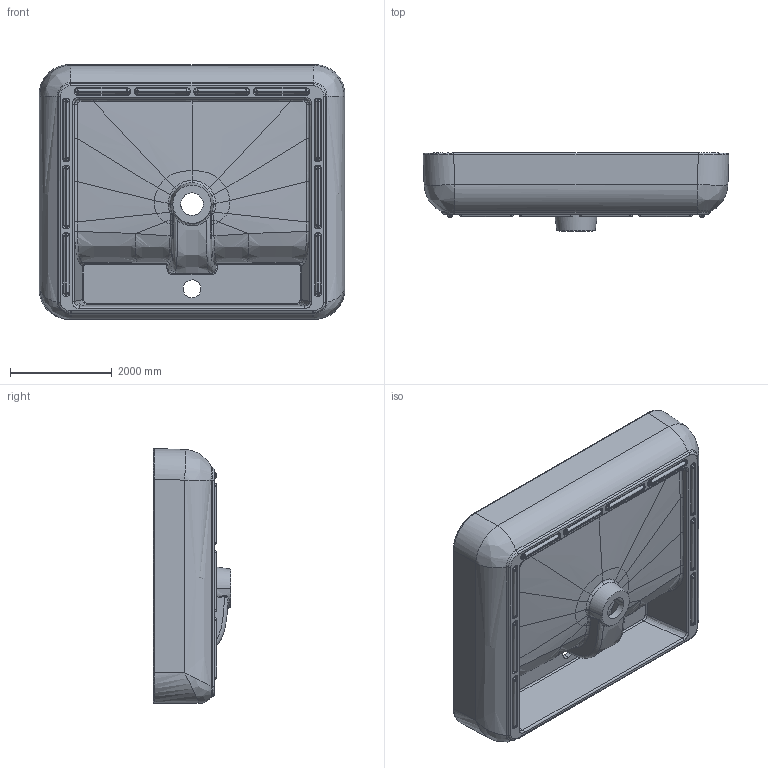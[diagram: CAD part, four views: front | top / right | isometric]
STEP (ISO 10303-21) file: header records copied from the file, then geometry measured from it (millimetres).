
FILE_DESCRIPTION(/* description */ (''),/* implementation_level */ '2;1');
FILE_NAME(/* name */ '3D2189~1',/* time_stamp */ '2021-07-07T20:02:18+02:00',/* author */ (''),/* organization */ (''),/* preprocessor_version */ 'ST-DEVELOPER v16.5',/* originating_system */ '',/* authorisation */ '');
FILE_SCHEMA (('AUTOMOTIVE_DESIGN'));
Length unit declared in the file: centimetre
Products named in the file (1): Document
Bounding box: 5997.78 x 1525 x 4998.89 mm (x, y, z)
Surface area: 113012116.9 mm2 (no closed solid volume)
Topology: 0 solids, 97 shells, 510 faces, 1438 edges, 857 vertices
Faces by surface type: bspline 472, plane 38
Entity records: 33519 total; most frequent: CARTESIAN_POINT 26674, ORIENTED_EDGE 2160, EDGE_CURVE 1286, VERTEX_POINT 857, B_SPLINE_CURVE_WITH_KNOTS 790, EDGE_LOOP 527, ADVANCED_FACE 510, FACE_OUTER_BOUND 510
